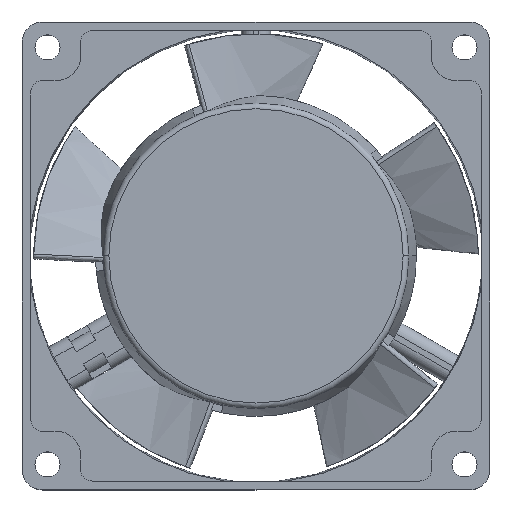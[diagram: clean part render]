
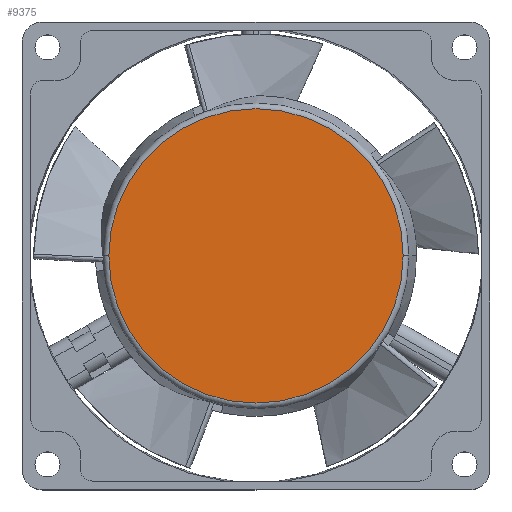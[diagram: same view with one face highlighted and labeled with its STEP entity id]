
A CAD part, top view. The second image highlights one B-rep face of the part: STEP entity #9375.
In plain terms, the highlighted planar face has unit normal (0, 0, 1).
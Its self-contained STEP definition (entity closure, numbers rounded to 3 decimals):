
#1095 = ORIENTED_EDGE ( 'NONE', *, *, #6532, .T. ) ;
#1297 = DIRECTION ( 'NONE',  ( 0., 0., 1. ) ) ;
#1312 = DIRECTION ( 'NONE',  ( 0., 0., 1. ) ) ;
#3039 = CIRCLE ( 'NONE', #11532, 25.233 ) ;
#4203 = CARTESIAN_POINT ( 'NONE',  ( 0., 0., 19.55 ) ) ;
#4353 = AXIS2_PLACEMENT_3D ( 'NONE', #4203, #11054, #5198 ) ;
#4500 = VERTEX_POINT ( 'NONE', #6429 ) ;
#5009 = AXIS2_PLACEMENT_3D ( 'NONE', #9948, #1312, #8104 ) ;
#5198 = DIRECTION ( 'NONE',  ( 1., 0., 0. ) ) ;
#5571 = CIRCLE ( 'NONE', #4353, 25.233 ) ;
#6133 = PLANE ( 'NONE',  #5009 ) ;
#6429 = CARTESIAN_POINT ( 'NONE',  ( 25.233, 0., 19.55 ) ) ;
#6532 = EDGE_CURVE ( 'NONE', #4500, #12593, #3039, .T. ) ;
#7120 = CARTESIAN_POINT ( 'NONE',  ( 0., 0., 19.55 ) ) ;
#7991 = CARTESIAN_POINT ( 'NONE',  ( -25.233, 0., 19.55 ) ) ;
#8095 = DIRECTION ( 'NONE',  ( 1., 0., 0. ) ) ;
#8104 = DIRECTION ( 'NONE',  ( 1., 0., 0. ) ) ;
#8341 = ORIENTED_EDGE ( 'NONE', *, *, #11898, .T. ) ;
#8511 = FACE_OUTER_BOUND ( 'NONE', #9802, .T. ) ;
#9375 = ADVANCED_FACE ( 'NONE', ( #8511 ), #6133, .T. ) ;
#9802 = EDGE_LOOP ( 'NONE', ( #1095, #8341 ) ) ;
#9948 = CARTESIAN_POINT ( 'NONE',  ( 0., 0., 19.55 ) ) ;
#11054 = DIRECTION ( 'NONE',  ( 0., 0., 1. ) ) ;
#11532 = AXIS2_PLACEMENT_3D ( 'NONE', #7120, #1297, #8095 ) ;
#11898 = EDGE_CURVE ( 'NONE', #12593, #4500, #5571, .T. ) ;
#12593 = VERTEX_POINT ( 'NONE', #7991 ) ;
